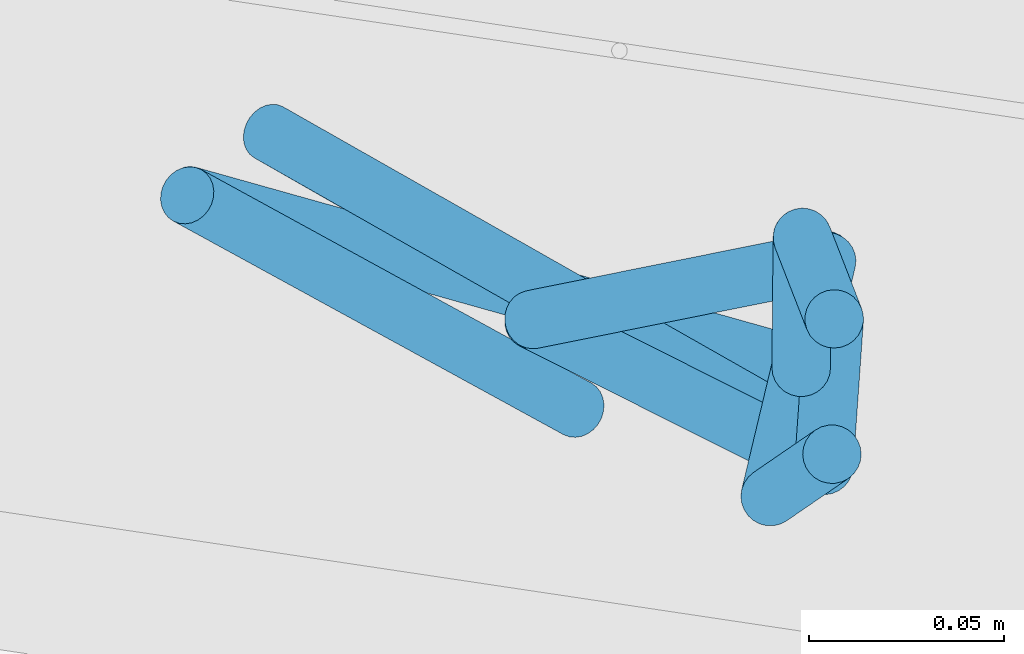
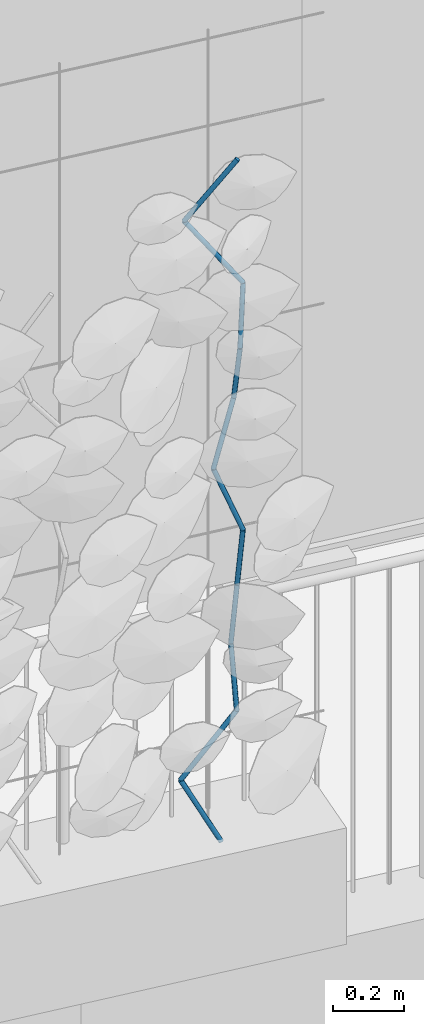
# One storey, part 108 of 128: 11 members, 1 element without a shape of its own.
"""IFC4 building model written with IfcOpenShell, lengths in metres."""

from ifc_helpers import new_model, si_unit, direction, frame, origin_with_axes, place, context, subcontext, project, spatial, circle, extrude, material, material_profile, profile_set, profile_usage, type_object, element, aggregate, save


model = new_model("IFC4")

# Units and contexts
model_context = context("Model", 3, precision=1e-05, world=origin_with_axes(), true_north=direction((0.0, 1.0)))
body_context = subcontext(model_context, "Body", "Model", "MODEL_VIEW")
ifc_project = project(units=[si_unit("VOLUMEUNIT", "CUBIC_METRE"), si_unit("LENGTHUNIT", "METRE"), si_unit("AREAUNIT", "SQUARE_METRE")], contexts=[model_context])

# Site, building, storey
site_placement = place(None, origin_with_axes())
site = spatial("IfcSite", under=ifc_project, at=site_placement, Name="Lares · Rua das Mercês · artigo 4771")
building_placement = place(site_placement, frame((15.0, 9.7, 13.9), z_axis=(0.0, 0.0, 1.0), x_axis=(0.989015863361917, -0.147809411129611, 0.0)))
building = spatial("IfcBuilding", under=site, at=building_placement, Name="Casa Sobreposta")
storey_placement = place(building_placement, origin_with_axes())
storey = spatial("IfcBuildingStorey", under=building, at=storey_placement, Name="00 · Habitação e estacionamento", Elevation=13.9)

# Assembly, members
assembly_placement = place(storey_placement, origin_with_axes())
assembly = element("IfcElementAssembly", 1, at=assembly_placement, inside=storey, Name="Fachada sul e pátio · estrutura e trepadeiras", ObjectType="LIVING_SHADE_TRELLIS", PredefinedType="USERDEFINED")
ifc_material = material(Name="Ramos de trepadeiras", Category="wood")
ifc_material_profile = material_profile(ifc_material, circle(Radius=0.0075))
ifc_profile_set = profile_set([ifc_material_profile], Name="D0.015")
ifc_profile_usage_1 = profile_usage(ifc_profile_set)
member_type = type_object("IfcMemberType", Name="D0.015 / vine_wood", PredefinedType="NOTDEFINED", material=ifc_profile_set)
member_1_placement = place(assembly_placement, frame((3.15289188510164, -1.70221202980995, 0.35), z_axis=(-0.444438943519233, 0.163440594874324, 0.880773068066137), x_axis=(0.345147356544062, 0.938548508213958, 0.0)))
member_1 = element("IfcMember", 2, at=member_1_placement, type_object=member_type, material=ifc_profile_usage_1, Name="Trepadeiras · ramo", context=body_context, shape_type="SweptSolid", body=[
    extrude(circle(Radius=0.0075), origin_with_axes(), (0.0, 0.0, 1.0), 0.240310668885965),
])
ifc_profile_usage_2 = profile_usage(ifc_profile_set)
member_2_placement = place(assembly_placement, frame((3.04608846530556, -1.66293551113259, 0.561659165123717), z_axis=(0.605775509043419, -0.0762897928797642, 0.791969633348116), x_axis=(-0.124950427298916, -0.992162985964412, 0.0)))
member_2 = element("IfcMember", 3, at=member_2_placement, type_object=member_type, material=ifc_profile_usage_2, Name="Trepadeiras · ramo", context=body_context, shape_type="SweptSolid", body=[
    extrude(circle(Radius=0.0075), origin_with_axes(), (0.0, 0.0, 1.0), 0.267256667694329),
])
ifc_profile_usage_3 = profile_usage(ifc_profile_set)
member_3_placement = place(assembly_placement, frame((3.20798600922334, -1.68332446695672, 0.773318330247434), z_axis=(-0.0216028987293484, 0.154162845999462, 0.987809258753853), x_axis=(0.990324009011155, 0.138774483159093, 0.0)))
member_3 = element("IfcMember", 4, at=member_3_placement, type_object=member_type, material=ifc_profile_usage_3, Name="Trepadeiras · ramo", context=body_context, shape_type="SweptSolid", body=[
    extrude(circle(Radius=0.0075), origin_with_axes(), (0.0, 0.0, 1.0), 0.214271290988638),
])
ifc_profile_usage_4 = profile_usage(ifc_profile_set)
member_4_placement = place(assembly_placement, frame((3.20335712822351, -1.65029179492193, 0.984977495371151), z_axis=(0.0522794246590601, -0.0913685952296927, 0.994443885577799), x_axis=(-0.867961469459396, -0.496631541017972, 0.0)))
member_4 = element("IfcMember", 5, at=member_4_placement, type_object=member_type, material=ifc_profile_usage_4, Name="Trepadeiras · ramo", context=body_context, shape_type="SweptSolid", body=[
    extrude(circle(Radius=0.0075), origin_with_axes(), (0.0, 0.0, 1.0), 0.212841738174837),
])
ifc_profile_usage_5 = profile_usage(ifc_profile_set)
member_5_placement = place(assembly_placement, frame((3.21448437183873, -1.66973884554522, 1.19663666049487), z_axis=(0.0136662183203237, -0.174807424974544, 0.984507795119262), x_axis=(-0.996957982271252, -0.077940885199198, 0.0)))
member_5 = element("IfcMember", 6, at=member_5_placement, type_object=member_type, material=ifc_profile_usage_5, Name="Trepadeiras · ramo", context=body_context, shape_type="SweptSolid", body=[
    extrude(circle(Radius=0.0075), origin_with_axes(), (0.0, 0.0, 1.0), 0.214989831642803),
])
ifc_profile_usage_6 = profile_usage(ifc_profile_set)
member_6_placement = place(assembly_placement, frame((3.21742246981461, -1.7073206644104, 1.40829582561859), z_axis=(-0.348552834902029, 0.114288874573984, 0.930295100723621), x_axis=(0.31157345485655, 0.950222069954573, 0.0)))
member_6 = element("IfcMember", 7, at=member_6_placement, type_object=member_type, material=ifc_profile_usage_6, Name="Trepadeiras · ramo", context=body_context, shape_type="SweptSolid", body=[
    extrude(circle(Radius=0.0075), origin_with_axes(), (0.0, 0.0, 1.0), 0.227518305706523),
])
ifc_profile_usage_7 = profile_usage(ifc_profile_set)
member_7_placement = place(assembly_placement, frame((3.13812031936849, -1.68131785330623, 1.6199549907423), z_axis=(0.320866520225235, 0.115973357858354, 0.939997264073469), x_axis=(0.339916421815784, -0.940455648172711, 0.0)))
member_7 = element("IfcMember", 8, at=member_7_placement, type_object=member_type, material=ifc_profile_usage_7, Name="Trepadeiras · ramo", context=body_context, shape_type="SweptSolid", body=[
    extrude(circle(Radius=0.0075), origin_with_axes(), (0.0, 0.0, 1.0), 0.225169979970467),
])
ifc_profile_usage_8 = profile_usage(ifc_profile_set)
member_8_placement = place(assembly_placement, frame((3.2103698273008, -1.65520413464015, 1.83161415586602), z_axis=(-0.0243191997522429, -0.280679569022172, 0.959493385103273), x_axis=(-0.996267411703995, 0.0863205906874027, 2.95397876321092e-18)))
member_8 = element("IfcMember", 9, at=member_8_placement, type_object=member_type, material=ifc_profile_usage_8, Name="Trepadeiras · ramo", context=body_context, shape_type="SweptSolid", body=[
    extrude(circle(Radius=0.0075), origin_with_axes(), (0.0, 0.0, 1.0), 0.22059471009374),
])
ifc_profile_usage_9 = profile_usage(ifc_profile_set)
member_9_placement = place(assembly_placement, frame((3.20500514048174, -1.71712056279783, 2.04327332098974), z_axis=(0.066014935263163, 0.0614364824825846, 0.995925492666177), x_axis=(0.681265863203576, -0.732036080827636, 0.0)))
member_9 = element("IfcMember", 10, at=member_9_placement, type_object=member_type, material=ifc_profile_usage_9, Name="Trepadeiras · ramo", context=body_context, shape_type="SweptSolid", body=[
    extrude(circle(Radius=0.0075), origin_with_axes(), (0.0, 0.0, 1.0), 0.212525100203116),
])
ifc_profile_usage_10 = profile_usage(ifc_profile_set)
member_10_placement = place(assembly_placement, frame((3.21903497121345, -1.7040637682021, 2.25493248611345), z_axis=(-0.575178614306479, 0.223607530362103, 0.786873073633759), x_axis=(0.362343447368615, 0.93204464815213, 0.0)))
member_10 = element("IfcMember", 11, at=member_10_placement, type_object=member_type, material=ifc_profile_usage_10, Name="Trepadeiras · ramo", context=body_context, shape_type="SweptSolid", body=[
    extrude(circle(Radius=0.0075), origin_with_axes(), (0.0, 0.0, 1.0), 0.268987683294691),
])
ifc_profile_usage_11 = profile_usage(ifc_profile_set)
member_11_placement = place(assembly_placement, frame((3.0643190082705, -1.64391609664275, 2.46659165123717), z_axis=(0.540255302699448, -0.208302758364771, 0.815312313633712), x_axis=(-0.359749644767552, -0.933048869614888, 0.0)))
member_11 = element("IfcMember", 12, at=member_11_placement, type_object=member_type, material=ifc_profile_usage_11, Name="Trepadeiras · ramo", context=body_context, shape_type="SweptSolid", body=[
    extrude(circle(Radius=0.0075), origin_with_axes(), (0.0, 0.0, 1.0), 0.259605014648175),
])
aggregate(assembly, [member_1, member_2, member_3, member_4, member_5, member_6, member_7, member_8, member_9, member_10, member_11])

save(model, "model.ifc")
